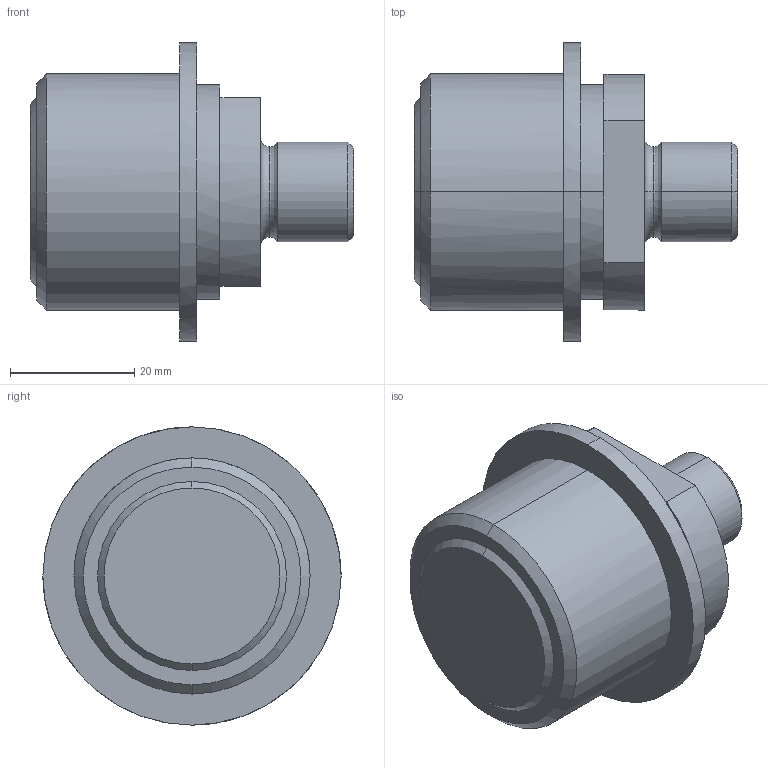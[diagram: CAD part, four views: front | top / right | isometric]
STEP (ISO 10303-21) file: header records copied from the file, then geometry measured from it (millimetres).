
FILE_DESCRIPTION(('CATIA V5 STEP Exchange'),'2;1');
FILE_NAME('C:\Users\Utente\Desktop\IO LAVORO\3D X SITO CF\X SITO\PLASTICA\AGS\AGS3402M16.stp','2021-02-21T19:22:46+00:00',('none'),('none'),'CATIA Version 5 Release 20 GA (IN-10)','CATIA V5 STEP AP203','none');
FILE_SCHEMA(('CONFIG_CONTROL_DESIGN'));
Length unit declared in the file: millimetre
Products named in the file (1): AGS3402M16
Bounding box: 52 x 48 x 48 mm (x, y, z)
Volume: 44673.2 mm3; surface area: 8855.3 mm2
Topology: 1 solids, 1 shells, 32 faces, 90 edges, 64 vertices
Faces by surface type: plane 12, cylinder 10, cone 6, torus 4
Entity records: 1198 total; most frequent: CARTESIAN_POINT 343, ORIENTED_EDGE 180, DIRECTION 139, EDGE_CURVE 90, AXIS2_PLACEMENT_3D 82, VERTEX_POINT 64, CIRCLE 49, EDGE_LOOP 36
